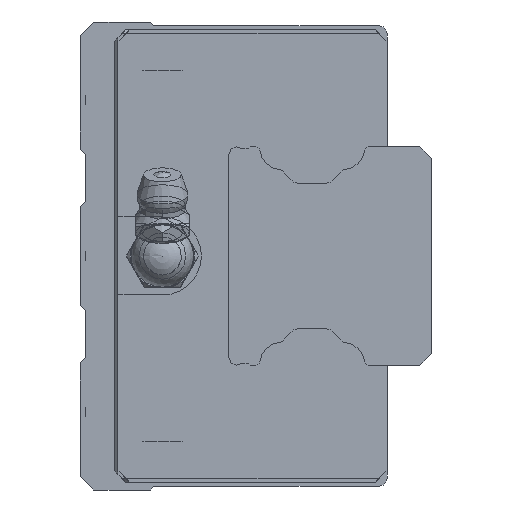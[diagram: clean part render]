
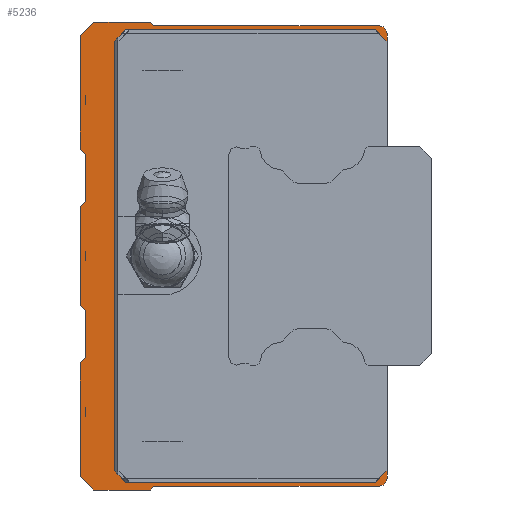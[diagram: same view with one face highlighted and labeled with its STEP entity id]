
A CAD part, left-side view. The second image highlights one B-rep face of the part: STEP entity #5236.
In plain terms, the highlighted planar face has unit normal (-1, 0, 0).
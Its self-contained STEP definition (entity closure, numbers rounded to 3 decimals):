
#111=LINE('',#8164,#473);
#120=LINE('',#8183,#482);
#127=LINE('',#8196,#489);
#153=LINE('',#8252,#515);
#161=LINE('',#8268,#523);
#167=LINE('',#8280,#529);
#192=LINE('',#8331,#554);
#197=LINE('',#8340,#559);
#199=LINE('',#8344,#561);
#224=LINE('',#8430,#586);
#228=LINE('',#8439,#590);
#231=LINE('',#8445,#593);
#235=LINE('',#8457,#597);
#239=LINE('',#8472,#601);
#243=LINE('',#8484,#605);
#246=LINE('',#8490,#608);
#249=LINE('',#8496,#611);
#252=LINE('',#8506,#614);
#255=LINE('',#8512,#617);
#259=LINE('',#8524,#621);
#263=LINE('',#8536,#625);
#266=LINE('',#8546,#628);
#269=LINE('',#8552,#631);
#273=LINE('',#8564,#635);
#277=LINE('',#8576,#639);
#280=LINE('',#8586,#642);
#473=VECTOR('',#6386,1000.);
#482=VECTOR('',#6401,1000.);
#489=VECTOR('',#6412,1000.);
#515=VECTOR('',#6452,1000.);
#523=VECTOR('',#6464,1000.);
#529=VECTOR('',#6476,1000.);
#554=VECTOR('',#6517,1000.);
#559=VECTOR('',#6524,1000.);
#561=VECTOR('',#6528,1000.);
#586=VECTOR('',#6595,1000.);
#590=VECTOR('',#6601,1000.);
#593=VECTOR('',#6606,1000.);
#597=VECTOR('',#6618,1000.);
#601=VECTOR('',#6636,1000.);
#605=VECTOR('',#6648,1000.);
#608=VECTOR('',#6653,1000.);
#611=VECTOR('',#6658,1000.);
#614=VECTOR('',#6667,1000.);
#617=VECTOR('',#6672,1000.);
#621=VECTOR('',#6684,1000.);
#625=VECTOR('',#6696,1000.);
#628=VECTOR('',#6705,1000.);
#631=VECTOR('',#6710,1000.);
#635=VECTOR('',#6722,1000.);
#639=VECTOR('',#6734,1000.);
#642=VECTOR('',#6743,1000.);
#837=PLANE('',#5694);
#1141=CIRCLE('',#5650,0.3);
#1143=CIRCLE('',#5654,1.);
#1145=CIRCLE('',#5657,1.);
#1147=CIRCLE('',#5661,0.3);
#1151=CIRCLE('',#5671,0.5);
#1153=CIRCLE('',#5675,0.5);
#1157=CIRCLE('',#5683,0.5);
#1159=CIRCLE('',#5687,0.5);
#1899=ORIENTED_EDGE('',*,*,#2889,.T.);
#1900=ORIENTED_EDGE('',*,*,#2896,.T.);
#1901=ORIENTED_EDGE('',*,*,#2969,.F.);
#1902=ORIENTED_EDGE('',*,*,#3031,.F.);
#1903=ORIENTED_EDGE('',*,*,#3028,.F.);
#1904=ORIENTED_EDGE('',*,*,#3025,.T.);
#1905=ORIENTED_EDGE('',*,*,#3022,.F.);
#1906=ORIENTED_EDGE('',*,*,#3019,.F.);
#1907=ORIENTED_EDGE('',*,*,#3015,.F.);
#1908=ORIENTED_EDGE('',*,*,#3093,.F.);
#1909=ORIENTED_EDGE('',*,*,#3088,.F.);
#1910=ORIENTED_EDGE('',*,*,#3085,.T.);
#1911=ORIENTED_EDGE('',*,*,#3082,.F.);
#1912=ORIENTED_EDGE('',*,*,#3079,.T.);
#1913=ORIENTED_EDGE('',*,*,#3076,.F.);
#1914=ORIENTED_EDGE('',*,*,#3073,.F.);
#1915=ORIENTED_EDGE('',*,*,#3068,.F.);
#1916=ORIENTED_EDGE('',*,*,#3065,.T.);
#1917=ORIENTED_EDGE('',*,*,#3062,.F.);
#1918=ORIENTED_EDGE('',*,*,#3059,.T.);
#1919=ORIENTED_EDGE('',*,*,#3056,.F.);
#1920=ORIENTED_EDGE('',*,*,#3053,.F.);
#1921=ORIENTED_EDGE('',*,*,#3048,.F.);
#1922=ORIENTED_EDGE('',*,*,#3045,.F.);
#1923=ORIENTED_EDGE('',*,*,#3042,.F.);
#1924=ORIENTED_EDGE('',*,*,#3039,.T.);
#1925=ORIENTED_EDGE('',*,*,#3036,.F.);
#1926=ORIENTED_EDGE('',*,*,#3033,.F.);
#1927=ORIENTED_EDGE('',*,*,#2971,.F.);
#1928=ORIENTED_EDGE('',*,*,#2931,.T.);
#1929=ORIENTED_EDGE('',*,*,#2938,.T.);
#1930=ORIENTED_EDGE('',*,*,#2923,.T.);
#1931=ORIENTED_EDGE('',*,*,#2964,.T.);
#1932=ORIENTED_EDGE('',*,*,#2879,.T.);
#2879=EDGE_CURVE('',#3539,#3538,#111,.T.);
#2889=EDGE_CURVE('',#3538,#3545,#120,.T.);
#2896=EDGE_CURVE('',#3545,#3549,#127,.T.);
#2923=EDGE_CURVE('',#3573,#3572,#153,.T.);
#2931=EDGE_CURVE('',#3579,#3578,#161,.T.);
#2938=EDGE_CURVE('',#3578,#3573,#167,.T.);
#2964=EDGE_CURVE('',#3572,#3539,#192,.T.);
#2969=EDGE_CURVE('',#3602,#3549,#197,.T.);
#2971=EDGE_CURVE('',#3579,#3604,#199,.T.);
#3015=EDGE_CURVE('',#3644,#3645,#224,.T.);
#3019=EDGE_CURVE('',#3645,#3648,#228,.T.);
#3022=EDGE_CURVE('',#3648,#3650,#231,.T.);
#3025=EDGE_CURVE('',#3652,#3650,#1141,.T.);
#3028=EDGE_CURVE('',#3652,#3654,#235,.T.);
#3031=EDGE_CURVE('',#3654,#3602,#1143,.T.);
#3033=EDGE_CURVE('',#3604,#3656,#1145,.T.);
#3036=EDGE_CURVE('',#3656,#3658,#239,.T.);
#3039=EDGE_CURVE('',#3660,#3658,#1147,.T.);
#3042=EDGE_CURVE('',#3660,#3662,#243,.T.);
#3045=EDGE_CURVE('',#3662,#3664,#246,.T.);
#3048=EDGE_CURVE('',#3664,#3666,#249,.T.);
#3053=EDGE_CURVE('',#3666,#3670,#252,.T.);
#3056=EDGE_CURVE('',#3670,#3672,#255,.T.);
#3059=EDGE_CURVE('',#3674,#3672,#1151,.T.);
#3062=EDGE_CURVE('',#3674,#3676,#259,.T.);
#3065=EDGE_CURVE('',#3678,#3676,#1153,.T.);
#3068=EDGE_CURVE('',#3678,#3680,#263,.T.);
#3073=EDGE_CURVE('',#3680,#3684,#266,.T.);
#3076=EDGE_CURVE('',#3684,#3686,#269,.T.);
#3079=EDGE_CURVE('',#3688,#3686,#1157,.T.);
#3082=EDGE_CURVE('',#3688,#3690,#273,.T.);
#3085=EDGE_CURVE('',#3692,#3690,#1159,.T.);
#3088=EDGE_CURVE('',#3692,#3694,#277,.T.);
#3093=EDGE_CURVE('',#3694,#3644,#280,.T.);
#3538=VERTEX_POINT('',#8163);
#3539=VERTEX_POINT('',#8165);
#3545=VERTEX_POINT('',#8182);
#3549=VERTEX_POINT('',#8195);
#3572=VERTEX_POINT('',#8251);
#3573=VERTEX_POINT('',#8253);
#3578=VERTEX_POINT('',#8267);
#3579=VERTEX_POINT('',#8269);
#3602=VERTEX_POINT('',#8339);
#3604=VERTEX_POINT('',#8345);
#3644=VERTEX_POINT('',#8431);
#3645=VERTEX_POINT('',#8432);
#3648=VERTEX_POINT('',#8440);
#3650=VERTEX_POINT('',#8446);
#3652=VERTEX_POINT('',#8452);
#3654=VERTEX_POINT('',#8458);
#3656=VERTEX_POINT('',#8467);
#3658=VERTEX_POINT('',#8473);
#3660=VERTEX_POINT('',#8479);
#3662=VERTEX_POINT('',#8485);
#3664=VERTEX_POINT('',#8491);
#3666=VERTEX_POINT('',#8497);
#3670=VERTEX_POINT('',#8507);
#3672=VERTEX_POINT('',#8513);
#3674=VERTEX_POINT('',#8519);
#3676=VERTEX_POINT('',#8525);
#3678=VERTEX_POINT('',#8531);
#3680=VERTEX_POINT('',#8537);
#3684=VERTEX_POINT('',#8547);
#3686=VERTEX_POINT('',#8553);
#3688=VERTEX_POINT('',#8559);
#3690=VERTEX_POINT('',#8565);
#3692=VERTEX_POINT('',#8571);
#3694=VERTEX_POINT('',#8577);
#4094=EDGE_LOOP('',(#1899,#1900,#1901,#1902,#1903,#1904,#1905,#1906,#1907,
#1908,#1909,#1910,#1911,#1912,#1913,#1914,#1915,#1916,#1917,#1918,#1919,
#1920,#1921,#1922,#1923,#1924,#1925,#1926,#1927,#1928,#1929,#1930,#1931,
#1932));
#4659=FACE_BOUND('',#4094,.T.);
#5236=ADVANCED_FACE('',(#4659),#837,.F.);
#5650=AXIS2_PLACEMENT_3D('',#8451,#6611,#6612);
#5654=AXIS2_PLACEMENT_3D('',#8463,#6623,#6624);
#5657=AXIS2_PLACEMENT_3D('',#8466,#6629,#6630);
#5661=AXIS2_PLACEMENT_3D('',#8478,#6641,#6642);
#5671=AXIS2_PLACEMENT_3D('',#8518,#6677,#6678);
#5675=AXIS2_PLACEMENT_3D('',#8530,#6689,#6690);
#5683=AXIS2_PLACEMENT_3D('',#8558,#6715,#6716);
#5687=AXIS2_PLACEMENT_3D('',#8570,#6727,#6728);
#5694=AXIS2_PLACEMENT_3D('',#8589,#6747,#6748);
#6386=DIRECTION('',(0.,-0.707,0.707));
#6401=DIRECTION('',(0.,-1.,0.));
#6412=DIRECTION('',(0.,-0.707,-0.707));
#6452=DIRECTION('',(0.,0.707,0.707));
#6464=DIRECTION('',(0.,0.707,-0.707));
#6476=DIRECTION('',(0.,1.,0.));
#6517=DIRECTION('',(0.,0.,1.));
#6524=DIRECTION('',(0.,0.,-1.));
#6528=DIRECTION('',(0.,0.,-1.));
#6595=DIRECTION('',(0.,-0.707,0.707));
#6601=DIRECTION('',(0.,-1.,0.));
#6606=DIRECTION('',(0.,-0.707,-0.707));
#6611=DIRECTION('',(1.,0.,0.));
#6612=DIRECTION('',(0.,0.,-1.));
#6618=DIRECTION('',(0.,-1.,0.));
#6623=DIRECTION('',(1.,0.,0.));
#6624=DIRECTION('',(0.,0.,-1.));
#6629=DIRECTION('',(1.,0.,0.));
#6630=DIRECTION('',(0.,0.,-1.));
#6636=DIRECTION('',(0.,1.,0.));
#6641=DIRECTION('',(1.,0.,0.));
#6642=DIRECTION('',(0.,0.,-1.));
#6648=DIRECTION('',(0.,0.707,-0.707));
#6653=DIRECTION('',(0.,1.,0.));
#6658=DIRECTION('',(0.,0.707,0.707));
#6667=DIRECTION('',(0.,0.,1.));
#6672=DIRECTION('',(0.,-0.707,0.707));
#6677=DIRECTION('',(1.,0.,0.));
#6678=DIRECTION('',(0.,0.,-1.));
#6684=DIRECTION('',(0.,0.,1.));
#6689=DIRECTION('',(1.,0.,0.));
#6690=DIRECTION('',(0.,0.,-1.));
#6696=DIRECTION('',(0.,0.707,0.707));
#6705=DIRECTION('',(0.,0.,1.));
#6710=DIRECTION('',(0.,-0.707,0.707));
#6715=DIRECTION('',(1.,0.,0.));
#6716=DIRECTION('',(0.,0.,-1.));
#6722=DIRECTION('',(0.,0.,1.));
#6727=DIRECTION('',(1.,0.,0.));
#6728=DIRECTION('',(0.,0.,-1.));
#6734=DIRECTION('',(0.,0.707,0.707));
#6743=DIRECTION('',(0.,0.,1.));
#6747=DIRECTION('',(1.,0.,0.));
#6748=DIRECTION('',(0.,0.,-1.));
#8163=CARTESIAN_POINT('',(-35.25,33.5,29.));
#8164=CARTESIAN_POINT('',(-35.25,35.,27.5));
#8165=CARTESIAN_POINT('',(-35.25,35.,27.5));
#8182=CARTESIAN_POINT('',(-35.25,1.5,29.));
#8183=CARTESIAN_POINT('',(-35.25,33.5,29.));
#8195=CARTESIAN_POINT('',(-35.25,0.,27.5));
#8196=CARTESIAN_POINT('',(-35.25,1.5,29.));
#8251=CARTESIAN_POINT('',(-35.25,35.,-27.5));
#8252=CARTESIAN_POINT('',(-35.25,33.5,-29.));
#8253=CARTESIAN_POINT('',(-35.25,33.5,-29.));
#8267=CARTESIAN_POINT('',(-35.25,1.5,-29.));
#8268=CARTESIAN_POINT('',(-35.25,0.,-27.5));
#8269=CARTESIAN_POINT('',(-35.25,0.,-27.5));
#8280=CARTESIAN_POINT('',(-35.25,1.5,-29.));
#8331=CARTESIAN_POINT('',(-35.25,35.,-27.5));
#8339=CARTESIAN_POINT('',(-35.25,0.,28.5));
#8340=CARTESIAN_POINT('',(-35.25,0.,28.5));
#8344=CARTESIAN_POINT('',(-35.25,0.,28.5));
#8345=CARTESIAN_POINT('',(-35.25,0.,-28.5));
#8430=CARTESIAN_POINT('',(-35.25,39.3,28.3));
#8431=CARTESIAN_POINT('',(-35.25,39.3,28.3));
#8432=CARTESIAN_POINT('',(-35.25,37.6,30.));
#8439=CARTESIAN_POINT('',(-35.25,37.6,30.));
#8440=CARTESIAN_POINT('',(-35.25,30.3,30.));
#8445=CARTESIAN_POINT('',(-35.25,30.3,30.));
#8446=CARTESIAN_POINT('',(-35.25,29.888,29.588));
#8451=CARTESIAN_POINT('',(-35.25,29.676,29.8));
#8452=CARTESIAN_POINT('',(-35.25,29.676,29.5));
#8457=CARTESIAN_POINT('',(-35.25,29.676,29.5));
#8458=CARTESIAN_POINT('',(-35.25,1.,29.5));
#8463=CARTESIAN_POINT('',(-35.25,1.,28.5));
#8466=CARTESIAN_POINT('',(-35.25,1.,-28.5));
#8467=CARTESIAN_POINT('',(-35.25,1.,-29.5));
#8472=CARTESIAN_POINT('',(-35.25,1.,-29.5));
#8473=CARTESIAN_POINT('',(-35.25,29.676,-29.5));
#8478=CARTESIAN_POINT('',(-35.25,29.676,-29.8));
#8479=CARTESIAN_POINT('',(-35.25,29.888,-29.588));
#8484=CARTESIAN_POINT('',(-35.25,29.888,-29.588));
#8485=CARTESIAN_POINT('',(-35.25,30.3,-30.));
#8490=CARTESIAN_POINT('',(-35.25,30.3,-30.));
#8491=CARTESIAN_POINT('',(-35.25,37.6,-30.));
#8496=CARTESIAN_POINT('',(-35.25,37.6,-30.));
#8497=CARTESIAN_POINT('',(-35.25,39.3,-28.3));
#8506=CARTESIAN_POINT('',(-35.25,39.3,-28.3));
#8507=CARTESIAN_POINT('',(-35.25,39.3,-13.7));
#8512=CARTESIAN_POINT('',(-35.25,39.3,-13.7));
#8513=CARTESIAN_POINT('',(-35.25,38.746,-13.146));
#8518=CARTESIAN_POINT('',(-35.25,39.1,-12.793));
#8519=CARTESIAN_POINT('',(-35.25,38.6,-12.793));
#8524=CARTESIAN_POINT('',(-35.25,38.6,-12.793));
#8525=CARTESIAN_POINT('',(-35.25,38.6,-7.207));
#8530=CARTESIAN_POINT('',(-35.25,39.1,-7.207));
#8531=CARTESIAN_POINT('',(-35.25,38.746,-6.854));
#8536=CARTESIAN_POINT('',(-35.25,38.746,-6.854));
#8537=CARTESIAN_POINT('',(-35.25,39.3,-6.3));
#8546=CARTESIAN_POINT('',(-35.25,39.3,-6.3));
#8547=CARTESIAN_POINT('',(-35.25,39.3,6.3));
#8552=CARTESIAN_POINT('',(-35.25,39.3,6.3));
#8553=CARTESIAN_POINT('',(-35.25,38.746,6.854));
#8558=CARTESIAN_POINT('',(-35.25,39.1,7.207));
#8559=CARTESIAN_POINT('',(-35.25,38.6,7.207));
#8564=CARTESIAN_POINT('',(-35.25,38.6,7.207));
#8565=CARTESIAN_POINT('',(-35.25,38.6,12.793));
#8570=CARTESIAN_POINT('',(-35.25,39.1,12.793));
#8571=CARTESIAN_POINT('',(-35.25,38.746,13.146));
#8576=CARTESIAN_POINT('',(-35.25,38.746,13.146));
#8577=CARTESIAN_POINT('',(-35.25,39.3,13.7));
#8586=CARTESIAN_POINT('',(-35.25,39.3,13.7));
#8589=CARTESIAN_POINT('',(-35.25,29.676,29.8));
